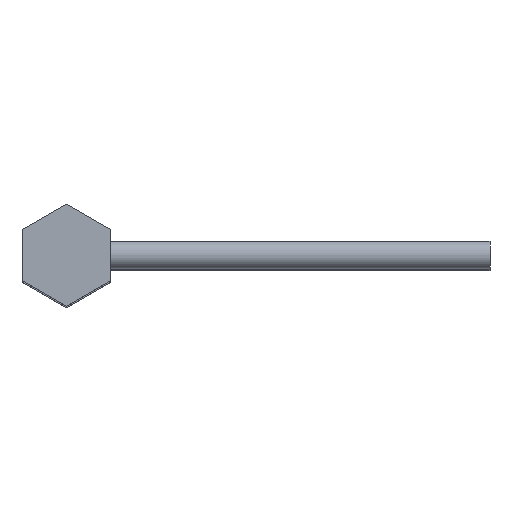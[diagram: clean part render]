
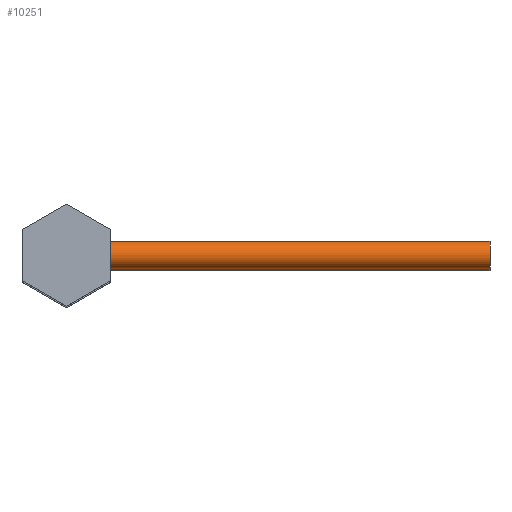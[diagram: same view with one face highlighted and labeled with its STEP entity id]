
A CAD part, top view. The second image highlights one B-rep face of the part: STEP entity #10251.
In plain terms, the highlighted cylindrical face has radius 1.1 mm (diameter 2.2 mm), a partial arc.
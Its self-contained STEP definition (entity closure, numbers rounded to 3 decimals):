
#1308 = ORIENTED_EDGE ( 'NONE', *, *, #1874, .F. ) ;
#1752 = EDGE_CURVE ( 'NONE', #7526, #9670, #9562, .T. ) ;
#1874 = EDGE_CURVE ( 'NONE', #10356, #4019, #4857, .T. ) ;
#2186 = CARTESIAN_POINT ( 'NONE',  ( 33.5, 0., 12.2 ) ) ;
#2415 = DIRECTION ( 'NONE',  ( 0., 1., 0. ) ) ;
#3243 = FACE_OUTER_BOUND ( 'NONE', #12846, .T. ) ;
#3882 = CIRCLE ( 'NONE', #6919, 1.1 ) ;
#4019 = VERTEX_POINT ( 'NONE', #6430 ) ;
#4857 = LINE ( 'NONE', #11155, #8979 ) ;
#5740 = CARTESIAN_POINT ( 'NONE',  ( 3.5, 0., 12.2 ) ) ;
#6162 = CARTESIAN_POINT ( 'NONE',  ( 33.5, -1.1, 12.2 ) ) ;
#6323 = ORIENTED_EDGE ( 'NONE', *, *, #1752, .T. ) ;
#6395 = VECTOR ( 'NONE', #12660, 1000. ) ;
#6430 = CARTESIAN_POINT ( 'NONE',  ( 3.5, -1.1, 12.2 ) ) ;
#6641 = CARTESIAN_POINT ( 'NONE',  ( 33.5, 1.1, 12.2 ) ) ;
#6919 = AXIS2_PLACEMENT_3D ( 'NONE', #5740, #9884, #2415 ) ;
#7160 = DIRECTION ( 'NONE',  ( 0., 1., 0. ) ) ;
#7399 = CARTESIAN_POINT ( 'NONE',  ( 33.5, 0., 12.2 ) ) ;
#7526 = VERTEX_POINT ( 'NONE', #13463 ) ;
#7996 = CIRCLE ( 'NONE', #10604, 1.1 ) ;
#8267 = ORIENTED_EDGE ( 'NONE', *, *, #12057, .F. ) ;
#8527 = DIRECTION ( 'NONE',  ( 0., -1., 0. ) ) ;
#8979 = VECTOR ( 'NONE', #9038, 1000. ) ;
#9038 = DIRECTION ( 'NONE',  ( -1., 0., 0. ) ) ;
#9417 = CYLINDRICAL_SURFACE ( 'NONE', #12759, 1.1 ) ;
#9562 = LINE ( 'NONE', #6641, #6395 ) ;
#9670 = VERTEX_POINT ( 'NONE', #12549 ) ;
#9884 = DIRECTION ( 'NONE',  ( 1., 0., 0. ) ) ;
#10251 = ADVANCED_FACE ( 'NONE', ( #3243 ), #9417, .T. ) ;
#10356 = VERTEX_POINT ( 'NONE', #6162 ) ;
#10468 = DIRECTION ( 'NONE',  ( 1., 0., 0. ) ) ;
#10604 = AXIS2_PLACEMENT_3D ( 'NONE', #2186, #10468, #7160 ) ;
#11155 = CARTESIAN_POINT ( 'NONE',  ( 33.5, -1.1, 12.2 ) ) ;
#11581 = DIRECTION ( 'NONE',  ( -1., 0., 0. ) ) ;
#12057 = EDGE_CURVE ( 'NONE', #7526, #10356, #7996, .T. ) ;
#12492 = ORIENTED_EDGE ( 'NONE', *, *, #13086, .T. ) ;
#12549 = CARTESIAN_POINT ( 'NONE',  ( 3.5, 1.1, 12.2 ) ) ;
#12660 = DIRECTION ( 'NONE',  ( -1., 0., 0. ) ) ;
#12759 = AXIS2_PLACEMENT_3D ( 'NONE', #7399, #11581, #8527 ) ;
#12846 = EDGE_LOOP ( 'NONE', ( #8267, #6323, #12492, #1308 ) ) ;
#13086 = EDGE_CURVE ( 'NONE', #9670, #4019, #3882, .T. ) ;
#13463 = CARTESIAN_POINT ( 'NONE',  ( 33.5, 1.1, 12.2 ) ) ;
